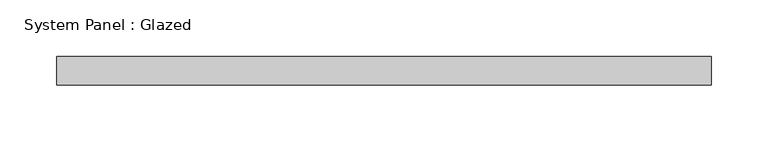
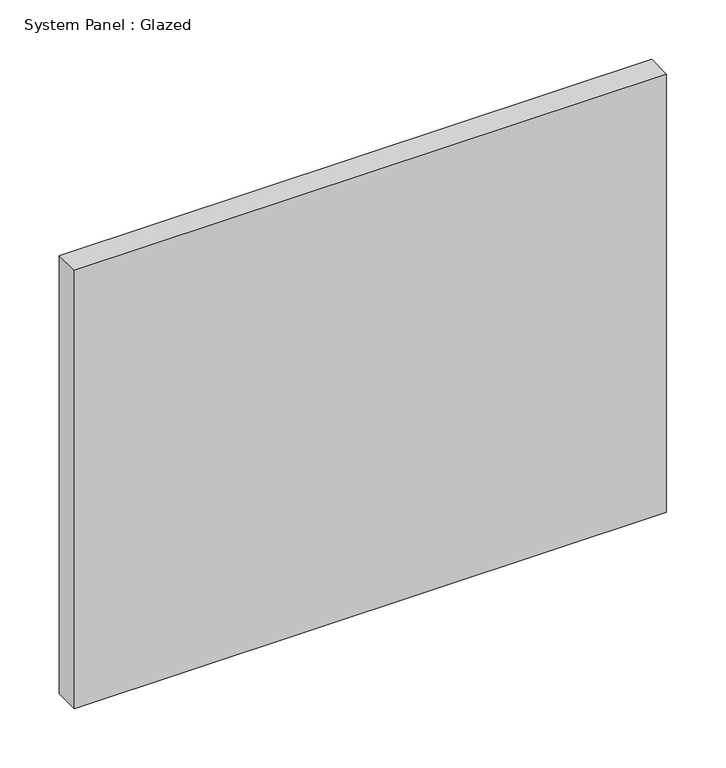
"""IFC4 building model written with IfcOpenShell, lengths in millimetres: plate geometry, System Panel : Glazed."""

from ifc_helpers import new_model, si_unit, origin, origin_with_axes, place, context, project, spatial, polyline, outline, extrude, source, transform, mapped, element, save


def system_panel_glazed_d06015c9(model_context):
    return source(origin(), model_context, "Body", "SweptSolid", [
        extrude(outline(polyline([(287.5000001, 24.5), (-287.5000001, 24.5), (-287.5000001, 49.5), (287.5000001, 49.5), (287.5000001, 24.5)])), origin_with_axes(), (0.0, 0.0, 1.0), 450.0),
    ])


if __name__ == "__main__":
    model = new_model("IFC4")
    model_context = context("Model", 3, world=origin())
    ifc_project = project(units=[si_unit("LENGTHUNIT", "METRE", prefix="MILLI")], contexts=[model_context])
    site = spatial("IfcSite", under=ifc_project)
    building = spatial("IfcBuilding", under=site)
    placement = place(None, origin())
    system_panel_glazed_shape = system_panel_glazed_d06015c9(model_context)
    element("IfcPlate", 1, ObjectType="System Panel : Glazed", at=placement, inside=building, context=model_context, shape_type="MappedRepresentation", body=[
        mapped(system_panel_glazed_shape, transform((0.0, 0.0, 0.0), x_axis=(1.0, 0.0, 0.0), y_axis=(0.0, 1.0, 0.0), z_axis=(0.0, 0.0, 1.0))),
    ])
    save(model, "model.ifc")
